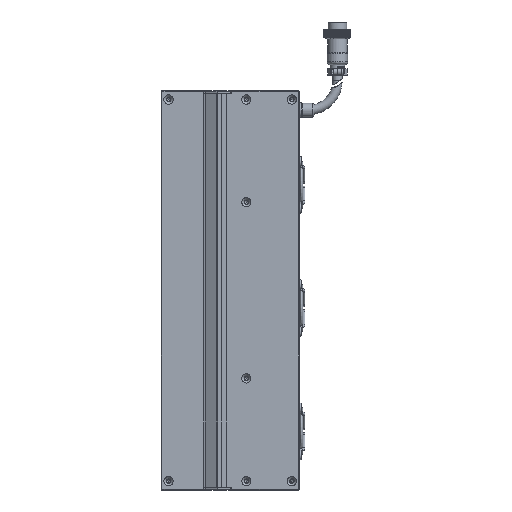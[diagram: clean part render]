
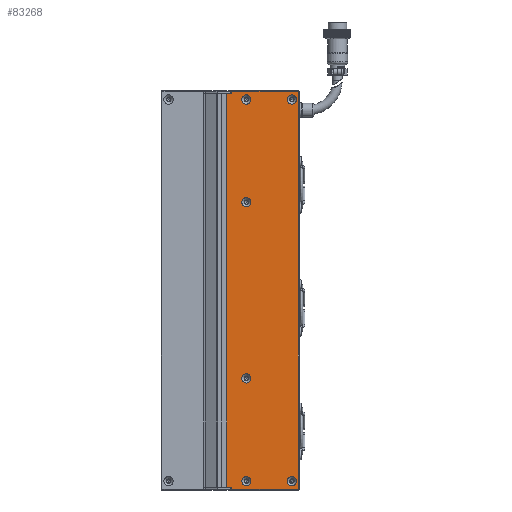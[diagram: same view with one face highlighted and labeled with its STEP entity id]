
A CAD part, left-side view. The second image highlights one B-rep face of the part: STEP entity #83268.
In plain terms, the highlighted planar face has unit normal (-1, 0, 0).
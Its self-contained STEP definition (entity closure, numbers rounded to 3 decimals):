
#1688 = VERTEX_POINT ( 'NONE', #13317 ) ;
#3393 = ORIENTED_EDGE ( 'NONE', *, *, #99095, .F. ) ;
#3511 = VERTEX_POINT ( 'NONE', #50884 ) ;
#4390 = ORIENTED_EDGE ( 'NONE', *, *, #45663, .F. ) ;
#4908 = CARTESIAN_POINT ( 'NONE',  ( -24.998, -72., 134. ) ) ;
#5747 = CARTESIAN_POINT ( 'NONE',  ( -24.998, -23.25, 134. ) ) ;
#5818 = VECTOR ( 'NONE', #96566, 1000. ) ;
#6321 = EDGE_CURVE ( 'NONE', #72101, #32084, #96055, .T. ) ;
#6718 = VECTOR ( 'NONE', #65049, 1000. ) ;
#7074 = DIRECTION ( 'NONE',  ( 0., 0., 1. ) ) ;
#8519 = EDGE_LOOP ( 'NONE', ( #62814 ) ) ;
#10829 = VECTOR ( 'NONE', #89024, 1000. ) ;
#11228 = VERTEX_POINT ( 'NONE', #22552 ) ;
#11562 = VERTEX_POINT ( 'NONE', #98596 ) ;
#11646 = DIRECTION ( 'NONE',  ( -1., 0., 0. ) ) ;
#11780 = DIRECTION ( 'NONE',  ( 0., 0., -1. ) ) ;
#13317 = CARTESIAN_POINT ( 'NONE',  ( -24.998, -72., 135.5 ) ) ;
#14765 = VECTOR ( 'NONE', #58797, 1000. ) ;
#15776 = FACE_OUTER_BOUND ( 'NONE', #82094, .T. ) ;
#17421 = CIRCLE ( 'NONE', #61218, 3.15 ) ;
#17953 = CARTESIAN_POINT ( 'NONE',  ( -24.998, -36.5, -126.85 ) ) ;
#20439 = LINE ( 'NONE', #4908, #10829 ) ;
#22347 = CARTESIAN_POINT ( 'NONE',  ( -24.998, -67.5, 133.15 ) ) ;
#22552 = CARTESIAN_POINT ( 'NONE',  ( -24.998, -26.5, -135.5 ) ) ;
#23198 = CARTESIAN_POINT ( 'NONE',  ( -24.998, -26.5, -127. ) ) ;
#25069 = ORIENTED_EDGE ( 'NONE', *, *, #36830, .F. ) ;
#26011 = CARTESIAN_POINT ( 'NONE',  ( -24.998, -72., -135.5 ) ) ;
#27218 = LINE ( 'NONE', #23198, #30440 ) ;
#28721 = CIRCLE ( 'NONE', #62588, 3.15 ) ;
#28962 = EDGE_CURVE ( 'NONE', #1688, #36701, #37601, .T. ) ;
#30440 = VECTOR ( 'NONE', #43207, 1000. ) ;
#31857 = AXIS2_PLACEMENT_3D ( 'NONE', #53627, #114701, #11780 ) ;
#31944 = DIRECTION ( 'NONE',  ( -1., 0., 0. ) ) ;
#32084 = VERTEX_POINT ( 'NONE', #65115 ) ;
#33532 = CARTESIAN_POINT ( 'NONE',  ( -24.998, -36.5, 60. ) ) ;
#35523 = EDGE_LOOP ( 'NONE', ( #3393 ) ) ;
#36103 = ORIENTED_EDGE ( 'NONE', *, *, #6321, .F. ) ;
#36701 = VERTEX_POINT ( 'NONE', #114007 ) ;
#36830 = EDGE_CURVE ( 'NONE', #80060, #80060, #89873, .T. ) ;
#37601 = LINE ( 'NONE', #126453, #5818 ) ;
#37976 = EDGE_CURVE ( 'NONE', #11562, #11562, #105718, .T. ) ;
#38283 = EDGE_CURVE ( 'NONE', #124721, #124721, #57803, .T. ) ;
#38877 = CARTESIAN_POINT ( 'NONE',  ( -24.998, -36.5, 133.15 ) ) ;
#39290 = CARTESIAN_POINT ( 'NONE',  ( -24.998, -26.5, -134. ) ) ;
#42836 = FACE_BOUND ( 'NONE', #85579, .T. ) ;
#43207 = DIRECTION ( 'NONE',  ( 0., 0., -1. ) ) ;
#43470 = CARTESIAN_POINT ( 'NONE',  ( -24.998, -67.5, -130. ) ) ;
#44345 = DIRECTION ( 'NONE',  ( 0., 0., 1. ) ) ;
#44369 = FACE_BOUND ( 'NONE', #8519, .T. ) ;
#45663 = EDGE_CURVE ( 'NONE', #102442, #102442, #17421, .T. ) ;
#47588 = DIRECTION ( 'NONE',  ( -1., 0., 0. ) ) ;
#47700 = VERTEX_POINT ( 'NONE', #39290 ) ;
#47904 = VERTEX_POINT ( 'NONE', #107607 ) ;
#49678 = AXIS2_PLACEMENT_3D ( 'NONE', #125500, #31944, #104096 ) ;
#50884 = CARTESIAN_POINT ( 'NONE',  ( -24.998, -36.5, 63.15 ) ) ;
#51220 = VERTEX_POINT ( 'NONE', #22347 ) ;
#53627 = CARTESIAN_POINT ( 'NONE',  ( -24.998, -72.5, 134. ) ) ;
#54415 = ORIENTED_EDGE ( 'NONE', *, *, #70270, .T. ) ;
#57796 = EDGE_LOOP ( 'NONE', ( #101035 ) ) ;
#57803 = CIRCLE ( 'NONE', #49678, 3.15 ) ;
#58797 = DIRECTION ( 'NONE',  ( 0., -1., 0. ) ) ;
#59684 = CARTESIAN_POINT ( 'NONE',  ( -24.998, -72.5, 134. ) ) ;
#61218 = AXIS2_PLACEMENT_3D ( 'NONE', #43470, #94713, #44345 ) ;
#61220 = VECTOR ( 'NONE', #128668, 1000. ) ;
#62588 = AXIS2_PLACEMENT_3D ( 'NONE', #113714, #11646, #82871 ) ;
#62814 = ORIENTED_EDGE ( 'NONE', *, *, #37976, .F. ) ;
#65049 = DIRECTION ( 'NONE',  ( 0., -1., 0. ) ) ;
#65115 = CARTESIAN_POINT ( 'NONE',  ( -24.998, -26.5, 134. ) ) ;
#67151 = DIRECTION ( 'NONE',  ( -1., 0., 0. ) ) ;
#69734 = DIRECTION ( 'NONE',  ( 0., 0., 1. ) ) ;
#70033 = FACE_BOUND ( 'NONE', #85950, .T. ) ;
#70270 = EDGE_CURVE ( 'NONE', #47700, #11228, #27218, .T. ) ;
#70896 = VECTOR ( 'NONE', #114514, 1000. ) ;
#71199 = VERTEX_POINT ( 'NONE', #26011 ) ;
#72101 = VERTEX_POINT ( 'NONE', #5747 ) ;
#72478 = ORIENTED_EDGE ( 'NONE', *, *, #98081, .T. ) ;
#72783 = ORIENTED_EDGE ( 'NONE', *, *, #81886, .T. ) ;
#73673 = DIRECTION ( 'NONE',  ( -1., 0., 0. ) ) ;
#75241 = AXIS2_PLACEMENT_3D ( 'NONE', #108662, #47588, #7074 ) ;
#79072 = ORIENTED_EDGE ( 'NONE', *, *, #28962, .T. ) ;
#79392 = CARTESIAN_POINT ( 'NONE',  ( -24.998, -67.5, -126.85 ) ) ;
#80060 = VERTEX_POINT ( 'NONE', #38877 ) ;
#81637 = ORIENTED_EDGE ( 'NONE', *, *, #86912, .F. ) ;
#81886 = EDGE_CURVE ( 'NONE', #36701, #32084, #128323, .T. ) ;
#82062 = EDGE_CURVE ( 'NONE', #3511, #3511, #124533, .T. ) ;
#82094 = EDGE_LOOP ( 'NONE', ( #72478, #54415, #110713, #106162, #79072, #72783, #36103, #81637 ) ) ;
#82871 = DIRECTION ( 'NONE',  ( 0., 0., 1. ) ) ;
#83268 = ADVANCED_FACE ( 'NONE', ( #124228, #97087, #44369, #70033, #42836, #114640, #15776 ), #124501, .F. ) ;
#83859 = DIRECTION ( 'NONE',  ( 0., 0., 1. ) ) ;
#85322 = CARTESIAN_POINT ( 'NONE',  ( -24.998, -26.5, 127. ) ) ;
#85579 = EDGE_LOOP ( 'NONE', ( #25069 ) ) ;
#85950 = EDGE_LOOP ( 'NONE', ( #120946 ) ) ;
#86912 = EDGE_CURVE ( 'NONE', #47904, #72101, #104495, .T. ) ;
#87564 = CARTESIAN_POINT ( 'NONE',  ( -24.998, -72.5, -134. ) ) ;
#89024 = DIRECTION ( 'NONE',  ( 0., 0., 1. ) ) ;
#89354 = CARTESIAN_POINT ( 'NONE',  ( -24.998, -36.5, 130. ) ) ;
#89873 = CIRCLE ( 'NONE', #117075, 3.15 ) ;
#94713 = DIRECTION ( 'NONE',  ( -1., 0., 0. ) ) ;
#95921 = LINE ( 'NONE', #117191, #6718 ) ;
#96055 = LINE ( 'NONE', #59684, #14765 ) ;
#96566 = DIRECTION ( 'NONE',  ( 0., 1., 0. ) ) ;
#97087 = FACE_BOUND ( 'NONE', #57796, .T. ) ;
#97842 = DIRECTION ( 'NONE',  ( 0., 0., 1. ) ) ;
#98081 = EDGE_CURVE ( 'NONE', #47904, #47700, #125124, .T. ) ;
#98596 = CARTESIAN_POINT ( 'NONE',  ( -24.998, -36.5, -56.85 ) ) ;
#99095 = EDGE_CURVE ( 'NONE', #51220, #51220, #28721, .T. ) ;
#101035 = ORIENTED_EDGE ( 'NONE', *, *, #38283, .F. ) ;
#102442 = VERTEX_POINT ( 'NONE', #79392 ) ;
#102595 = EDGE_CURVE ( 'NONE', #71199, #1688, #20439, .T. ) ;
#104096 = DIRECTION ( 'NONE',  ( 0., 0., 1. ) ) ;
#104495 = LINE ( 'NONE', #120548, #130152 ) ;
#105718 = CIRCLE ( 'NONE', #75241, 3.15 ) ;
#106162 = ORIENTED_EDGE ( 'NONE', *, *, #102595, .T. ) ;
#107607 = CARTESIAN_POINT ( 'NONE',  ( -24.998, -23.25, -134. ) ) ;
#108662 = CARTESIAN_POINT ( 'NONE',  ( -24.998, -36.5, -60. ) ) ;
#110713 = ORIENTED_EDGE ( 'NONE', *, *, #124148, .T. ) ;
#113714 = CARTESIAN_POINT ( 'NONE',  ( -24.998, -67.5, 130. ) ) ;
#114007 = CARTESIAN_POINT ( 'NONE',  ( -24.998, -26.5, 135.5 ) ) ;
#114514 = DIRECTION ( 'NONE',  ( 0., 0., -1. ) ) ;
#114640 = FACE_BOUND ( 'NONE', #35523, .T. ) ;
#114701 = DIRECTION ( 'NONE',  ( 1., 0., 0. ) ) ;
#117075 = AXIS2_PLACEMENT_3D ( 'NONE', #89354, #67151, #97842 ) ;
#117191 = CARTESIAN_POINT ( 'NONE',  ( -24.998, -72.5, -135.5 ) ) ;
#117838 = EDGE_LOOP ( 'NONE', ( #4390 ) ) ;
#120548 = CARTESIAN_POINT ( 'NONE',  ( -24.998, -23.25, -134. ) ) ;
#120946 = ORIENTED_EDGE ( 'NONE', *, *, #82062, .F. ) ;
#124148 = EDGE_CURVE ( 'NONE', #11228, #71199, #95921, .T. ) ;
#124228 = FACE_BOUND ( 'NONE', #117838, .T. ) ;
#124501 = PLANE ( 'NONE',  #31857 ) ;
#124533 = CIRCLE ( 'NONE', #124723, 3.15 ) ;
#124721 = VERTEX_POINT ( 'NONE', #17953 ) ;
#124723 = AXIS2_PLACEMENT_3D ( 'NONE', #33532, #73673, #83859 ) ;
#125124 = LINE ( 'NONE', #87564, #61220 ) ;
#125500 = CARTESIAN_POINT ( 'NONE',  ( -24.998, -36.5, -130. ) ) ;
#126453 = CARTESIAN_POINT ( 'NONE',  ( -24.998, -72.5, 135.5 ) ) ;
#128323 = LINE ( 'NONE', #85322, #70896 ) ;
#128668 = DIRECTION ( 'NONE',  ( 0., -1., 0. ) ) ;
#130152 = VECTOR ( 'NONE', #69734, 1000. ) ;
